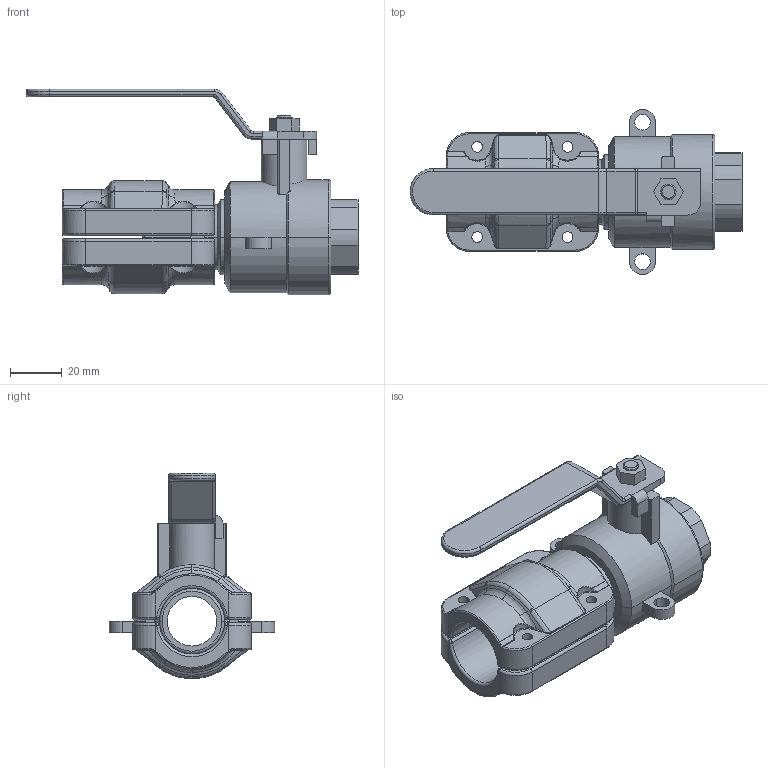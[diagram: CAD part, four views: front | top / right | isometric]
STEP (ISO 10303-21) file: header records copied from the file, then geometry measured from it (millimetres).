
FILE_DESCRIPTION((''),'2;1');
FILE_NAME('AU15221599_ASM','2017-05-14T',('li'),(''),'PRO/ENGINEER BY PARAMETRIC TECHNOLOGY CORPORATION, 2009360','PRO/ENGINEER BY PARAMETRIC TECHNOLOGY CORPORATION, 2009360','');
FILE_SCHEMA(('AUTOMOTIVE_DESIGN { 1 0 10303 214 1 1 1 1 }'));
Length unit declared in the file: millimetre
Products named in the file (5): AU15225100; 201520020000_23; 201520020001_10; 2015200200_ASM; AU15221599_ASM
Assembly tree (4 placements, depth 3):
  AU15221599_ASM
    AU15225100
    2015200200_ASM
      201520020000_23
      201520020001_10
Bounding box: 128.65 x 64.08 x 79.64 mm (x, y, z)
Volume: 94853.2 mm3; surface area: 44174.6 mm2
Topology: 3 solids, 3 shells, 461 faces, 1094 edges, 645 vertices
Faces by surface type: cylinder 155, bspline 144, plane 83, torus 54, cone 17, sphere 8
Entity records: 21947 total; most frequent: CARTESIAN_POINT 8659, ORIENTED_EDGE 2188, DIRECTION 1789, PRESENTATION_STYLE_ASSIGNMENT 1097, STYLED_ITEM 1097, CURVE_STYLE 1094, EDGE_CURVE 1094, AXIS2_PLACEMENT_3D 718
